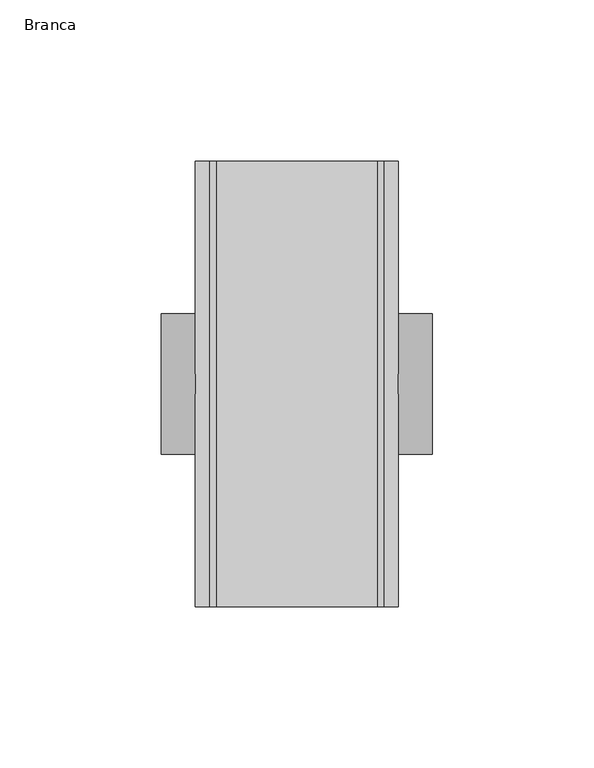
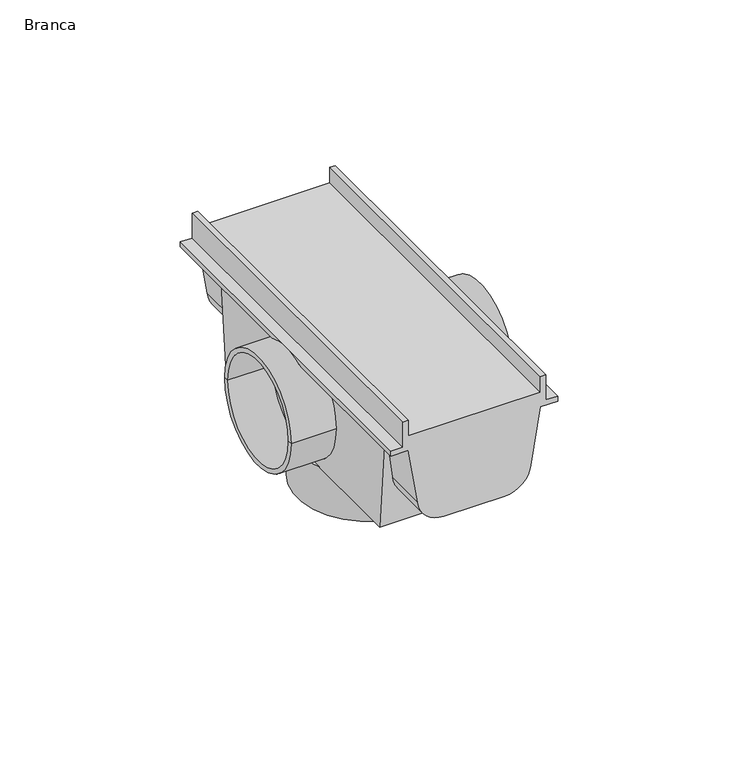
"""IFC4 building model written with IfcOpenShell, lengths in millimetres: pipe fitting geometry, AmancoWavin_ConexõesdeTubos_EsgotoZNãoUsarTerminalRalolinear : Branca."""

from ifc_helpers import new_model, si_unit, frame, origin, place, context, project, spatial, polyline, circle_curve, ellipse_curve, source, transform, mapped, element, save
from ifc_brep_helpers import plane_surface, cylinder_surface, revolved_surface, advanced_brep


def branca_e114f869(model_context):
    return source(origin(), model_context, "Body", "AdvancedBrep", [
        advanced_brep(
        [(0.0, 25.35, -40.0), (0.0, 25.35, -22.0), (0.0, -25.35, -22.0), (0.0, -25.35, -40.0), (0.0, 27.15, -40.0), (0.0, -27.15, -40.0), (0.0, 27.15, -22.0), (0.0, -27.15, -22.0)],
        [
            (0, 1),
            (1, 2, circle_curve(frame((0.0, 0.0, -22.0), z_axis=(0.0, 0.0, 1.0), x_axis=(0.0, -1.0, 0.0)), 25.35)),
            (2, 3),
            (3, 0, circle_curve(frame((0.0, 0.0, -40.0), z_axis=(0.0, 0.0, -1.0), x_axis=(0.0, -1.0, 0.0)), 25.35)),
            (2, 1, circle_curve(frame((0.0, 0.0, -22.0), z_axis=(0.0, 0.0, 1.0), x_axis=(0.0, -1.0, 0.0)), 25.35)),
            (0, 3, circle_curve(frame((0.0, 0.0, -40.0), z_axis=(0.0, 0.0, -1.0), x_axis=(0.0, -1.0, 0.0)), 25.35)),
            (4, 0),
            (3, 5),
            (5, 4, circle_curve(frame((0.0, 0.0, -40.0), z_axis=(0.0, 0.0, -1.0), x_axis=(0.0, -1.0, 0.0)), 27.15)),
            (4, 5, circle_curve(frame((0.0, 0.0, -40.0), z_axis=(0.0, 0.0, -1.0), x_axis=(0.0, -1.0, 0.0)), 27.15)),
            (6, 4),
            (5, 7),
            (7, 6, circle_curve(frame((0.0, 0.0, -22.0), z_axis=(0.0, 0.0, -1.0), x_axis=(0.0, -1.0, 0.0)), 27.15)),
            (6, 7, circle_curve(frame((0.0, 0.0, -22.0), z_axis=(0.0, 0.0, -1.0), x_axis=(0.0, -1.0, 0.0)), 27.15)),
            (1, 6),
            (7, 2),
        ],
        [
            revolved_surface(polyline([(0.0, -25.35, -22.0), (0.0, -25.35, -40.0)]), (0.0, 0.0, 2741.4742198), (0.0, 0.0, 1.0)),
            plane_surface(frame((0.0, 0.0, -40.0), z_axis=(0.0, 0.0, -1.0), x_axis=(0.0, -1.0, 0.0))),
            cylinder_surface(frame((0.0, 0.0, 2741.4742198), z_axis=(0.0, 0.0, 1.0), x_axis=(0.0, -1.0, 0.0)), 27.15),
            plane_surface(frame((0.0, 0.0, -22.0), z_axis=(0.0, 0.0, 1.0), x_axis=(0.0, -1.0, 0.0))),
        ],
        [
            (0, [[1, 2, 3, 4]]),
            (0, [[-3, 5, -1, 6]]),
            (1, [[7, -4, 8, 9]]),
            (1, [[-8, -6, -7, 10]]),
            (2, [[11, -9, 12, 13]]),
            (2, [[-12, -10, -11, 14]]),
            (3, [[15, -13, 16, -2]]),
            (3, [[-16, -14, -15, -5]]),
        ],
    ),
        advanced_brep(
        [(0.0, 20.0, -40.0), (0.0, 20.0, -22.0), (0.0, -20.0, -22.0), (0.0, -20.0, -40.0), (0.0, 21.8, -40.0), (0.0, -21.8, -40.0), (0.0, 21.8, -22.0), (0.0, -21.8, -22.0)],
        [
            (0, 1),
            (1, 2, circle_curve(frame((0.0, 0.0, -22.0), z_axis=(0.0, 0.0, 1.0), x_axis=(0.0, -1.0, 0.0)), 20.0)),
            (2, 3),
            (3, 0, circle_curve(frame((0.0, 0.0, -40.0), z_axis=(0.0, 0.0, -1.0), x_axis=(0.0, -1.0, 0.0)), 20.0)),
            (2, 1, circle_curve(frame((0.0, 0.0, -22.0), z_axis=(0.0, 0.0, 1.0), x_axis=(0.0, -1.0, 0.0)), 20.0)),
            (0, 3, circle_curve(frame((0.0, 0.0, -40.0), z_axis=(0.0, 0.0, -1.0), x_axis=(0.0, -1.0, 0.0)), 20.0)),
            (4, 0),
            (3, 5),
            (5, 4, circle_curve(frame((0.0, 0.0, -40.0), z_axis=(0.0, 0.0, -1.0), x_axis=(0.0, -1.0, 0.0)), 21.8)),
            (4, 5, circle_curve(frame((0.0, 0.0, -40.0), z_axis=(0.0, 0.0, -1.0), x_axis=(0.0, -1.0, 0.0)), 21.8)),
            (6, 4),
            (5, 7),
            (7, 6, circle_curve(frame((0.0, 0.0, -22.0), z_axis=(0.0, 0.0, -1.0), x_axis=(0.0, -1.0, 0.0)), 21.8)),
            (6, 7, circle_curve(frame((0.0, 0.0, -22.0), z_axis=(0.0, 0.0, -1.0), x_axis=(0.0, -1.0, 0.0)), 21.8)),
            (1, 6),
            (7, 2),
        ],
        [
            revolved_surface(polyline([(0.0, -20.0, -22.0), (0.0, -20.0, -40.0)]), (0.0, 0.0, 2741.4742198), (0.0, 0.0, 1.0)),
            plane_surface(frame((0.0, 0.0, -40.0), z_axis=(0.0, 0.0, -1.0), x_axis=(0.0, -1.0, 0.0))),
            cylinder_surface(frame((0.0, 0.0, 2741.4742198), z_axis=(0.0, 0.0, 1.0), x_axis=(0.0, -1.0, 0.0)), 21.8),
            plane_surface(frame((0.0, 0.0, -22.0), z_axis=(0.0, 0.0, 1.0), x_axis=(0.0, -1.0, 0.0))),
        ],
        [
            (0, [[1, 2, 3, 4]]),
            (0, [[-3, 5, -1, 6]]),
            (1, [[7, -4, 8, 9]]),
            (1, [[-8, -6, -7, 10]]),
            (2, [[11, -9, 12, 13]]),
            (2, [[-12, -10, -11, 14]]),
            (3, [[15, -13, 16, -2]]),
            (3, [[-16, -14, -15, -5]]),
        ],
    ),
        advanced_brep(
        [(-42.0, 20.0, 0.0), (-42.0, 21.8, 0.0), (-42.0, -21.8, 0.0), (-42.0, -20.0, 0.0), (-25.0, -20.0, 0.0), (-25.0, 20.0, 0.0), (-25.0, 0.0, 20.0), (42.0, 20.0, 0.0), (25.0, 20.0, 0.0), (25.0, -20.0, 0.0), (42.0, -20.0, 0.0), (25.0, 0.0, 20.0), (42.0, -21.8, 0.0), (42.0, 21.8, 0.0), (-25.0, 21.8, 0.0), (-25.0, -21.8, 0.0), (25.0, -21.8, 0.0), (25.0, 21.8, 0.0), (-25.0, -8.6740994, 20.0), (-31.5, -8.6740994, 20.0), (-31.5, 8.6740994, 20.0), (-25.0, 8.6740994, 20.0), (25.0, 8.6740994, 20.0), (31.5, 8.6740994, 20.0), (31.5, -8.6740994, 20.0), (25.0, -8.6740994, 20.0), (25.0, 54.0, 20.0), (25.0, -54.0, 20.0), (25.0, -50.3254761, -22.0), (25.0, 50.3254761, -22.0), (-25.0, -54.0, 20.0), (-25.0, 54.0, 20.0), (-25.0, 50.3254761, -22.0), (-25.0, -50.3254761, -22.0), (-21.3121214, 52.0719341, -2.0378936), (-11.5480068, 51.2878514, -11.0), (11.5480068, 51.2878514, -11.0), (21.3121214, 52.0719341, -2.0378936), (21.3121214, -52.0719341, -2.0378936), (11.5480068, -51.2878514, -11.0), (-11.5480068, -51.2878514, -11.0), (-21.3121214, -52.0719341, -2.0378936), (-31.5, -69.0, 20.0), (-25.0, -69.0, 20.0), (-21.3121214, -69.0, -2.0378936), (-11.5480068, -69.0, -11.0), (11.5480068, -69.0, -11.0), (21.3121214, -69.0, -2.0378936), (25.0, -69.0, 20.0), (31.5, -69.0, 20.0), (31.5, -69.0, 22.0), (27.0, -69.0, 22.0), (27.0, -69.0, 32.0), (25.0, -69.0, 32.0), (25.0, -69.0, 25.8), (-25.0, -69.0, 25.8), (-25.0, -69.0, 32.0), (-27.0, -69.0, 32.0), (-27.0, -69.0, 22.0), (-31.5, -69.0, 22.0), (-31.5, 69.0, 20.0), (-25.0, 69.0, 20.0), (25.0, 69.0, 20.0), (31.5, 69.0, 20.0), (31.5, 69.0, 22.0), (27.0, 69.0, 22.0), (27.0, 69.0, 32.0), (25.0, 69.0, 32.0), (25.0, 69.0, 25.8), (-25.0, 69.0, 25.8), (-25.0, 69.0, 32.0), (-27.0, 69.0, 22.0), (-27.0, 69.0, 32.0), (-31.5, 69.0, 22.0), (21.3121214, 69.0, -2.0378936), (11.5480068, 69.0, -11.0), (-11.5480068, 69.0, -11.0), (-21.3121214, 69.0, -2.0378936)],
        [
            (0, 1),
            (1, 2, circle_curve(frame((-42.0, 0.0, 0.0), z_axis=(-1.0, 0.0, 0.0), x_axis=(0.0, -1.0, 0.0)), 21.8)),
            (2, 3),
            (3, 0, circle_curve(frame((-42.0, 0.0, 0.0), z_axis=(1.0, 0.0, 0.0), x_axis=(0.0, -1.0, 0.0)), 20.0)),
            (2, 1, circle_curve(frame((-42.0, 0.0, 0.0), z_axis=(-1.0, 0.0, 0.0), x_axis=(0.0, -1.0, 0.0)), 21.8)),
            (0, 3, circle_curve(frame((-42.0, 0.0, 0.0), z_axis=(1.0, 0.0, 0.0), x_axis=(0.0, -1.0, 0.0)), 20.0)),
            (3, 4),
            (4, 5, circle_curve(frame((-25.0, 0.0, 0.0), z_axis=(1.0, 0.0, 0.0), x_axis=(0.0, -1.0, 0.0)), 20.0)),
            (5, 0),
            (5, 6, circle_curve(frame((-25.0, 0.0, 0.0), z_axis=(1.0, 0.0, 0.0), x_axis=(0.0, -1.0, 0.0)), 20.0)),
            (6, 4, circle_curve(frame((-25.0, 0.0, 0.0), z_axis=(1.0, 0.0, 0.0), x_axis=(0.0, -1.0, 0.0)), 20.0)),
            (7, 8),
            (8, 9, circle_curve(frame((25.0, 0.0, 0.0), z_axis=(-1.0, 0.0, 0.0), x_axis=(0.0, -1.0, 0.0)), 20.0)),
            (9, 10),
            (10, 7, circle_curve(frame((42.0, 0.0, 0.0), z_axis=(1.0, 0.0, 0.0), x_axis=(0.0, -1.0, 0.0)), 20.0)),
            (9, 11, circle_curve(frame((25.0, 0.0, 0.0), z_axis=(-1.0, 0.0, 0.0), x_axis=(0.0, -1.0, 0.0)), 20.0)),
            (11, 8, circle_curve(frame((25.0, 0.0, 0.0), z_axis=(-1.0, 0.0, 0.0), x_axis=(0.0, -1.0, 0.0)), 20.0)),
            (7, 10, circle_curve(frame((42.0, 0.0, 0.0), z_axis=(1.0, 0.0, 0.0), x_axis=(0.0, -1.0, 0.0)), 20.0)),
            (10, 12),
            (12, 13, circle_curve(frame((42.0, 0.0, 0.0), z_axis=(1.0, 0.0, 0.0), x_axis=(0.0, -1.0, 0.0)), 21.8)),
            (13, 7),
            (13, 12, circle_curve(frame((42.0, 0.0, 0.0), z_axis=(1.0, 0.0, 0.0), x_axis=(0.0, -1.0, 0.0)), 21.8)),
            (1, 14),
            (14, 15, circle_curve(frame((-25.0, 0.0, 0.0), z_axis=(-1.0, 0.0, 0.0), x_axis=(0.0, -1.0, 0.0)), 21.8)),
            (15, 2),
            (12, 16),
            (16, 17, circle_curve(frame((25.0, 0.0, 0.0), z_axis=(1.0, 0.0, 0.0), x_axis=(0.0, -1.0, 0.0)), 21.8)),
            (17, 13),
            (15, 18, circle_curve(frame((-25.0, 0.0, 0.0), z_axis=(-1.0, 0.0, 0.0), x_axis=(0.0, -1.0, 0.0)), 21.8)),
            (18, 19),
            (19, 20, circle_curve(frame((-31.5, 0.0, 0.0), z_axis=(-1.0, 0.0, 0.0), x_axis=(0.0, -1.0, 0.0)), 21.8)),
            (20, 21),
            (21, 14, circle_curve(frame((-25.0, 0.0, 0.0), z_axis=(-1.0, 0.0, 0.0), x_axis=(0.0, -1.0, 0.0)), 21.8)),
            (17, 22, circle_curve(frame((25.0, 0.0, 0.0), z_axis=(1.0, 0.0, 0.0), x_axis=(0.0, -1.0, 0.0)), 21.8)),
            (22, 23),
            (23, 24, circle_curve(frame((31.5, 0.0, 0.0), z_axis=(1.0, 0.0, 0.0), x_axis=(0.0, -1.0, 0.0)), 21.8)),
            (24, 25),
            (25, 16, circle_curve(frame((25.0, 0.0, 0.0), z_axis=(1.0, 0.0, 0.0), x_axis=(0.0, -1.0, 0.0)), 21.8)),
            (26, 22),
            (25, 27),
            (27, 28),
            (28, 29),
            (29, 26),
            (30, 18),
            (21, 31),
            (31, 32),
            (32, 33),
            (33, 30),
            (29, 32),
            (31, 34),
            (34, 35, ellipse_curve(frame((-11.5480068, 52.1452403, -1.2), z_axis=(0.0, -0.9961946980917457, 0.0871557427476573), x_axis=(0.0, 0.08715574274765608, 0.9961946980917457)), 9.8374344, 9.8)),
            (35, 36),
            (36, 37, ellipse_curve(frame((11.5480068, 52.1452403, -1.2), z_axis=(0.0, -0.9961946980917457, 0.0871557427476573), x_axis=(0.0, 0.08715574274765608, 0.9961946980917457)), 9.8374344, 9.8)),
            (37, 26),
            (28, 33),
            (27, 38),
            (38, 39, ellipse_curve(frame((11.5480068, -52.1452403, -1.2), z_axis=(0.0, 0.9961946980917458, 0.0871557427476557), x_axis=(0.0, 0.08715574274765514, -0.9961946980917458)), 9.8374344, 9.8)),
            (39, 40),
            (40, 41, ellipse_curve(frame((-11.5480068, -52.1452403, -1.2), z_axis=(0.0, 0.9961946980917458, 0.0871557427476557), x_axis=(0.0, 0.08715574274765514, -0.9961946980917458)), 9.8374344, 9.8)),
            (41, 30),
            (42, 43),
            (43, 44),
            (44, 45, circle_curve(frame((-11.5480068, -69.0, -1.2), z_axis=(0.0, -1.0, 0.0), x_axis=(1.0, 0.0, 0.0)), 9.8)),
            (45, 46),
            (46, 47, circle_curve(frame((11.5480068, -69.0, -1.2), z_axis=(0.0, -1.0, 0.0), x_axis=(1.0, 0.0, 0.0)), 9.8)),
            (47, 48),
            (48, 49),
            (49, 50),
            (50, 51),
            (51, 52),
            (52, 53),
            (53, 54),
            (54, 55),
            (55, 56),
            (56, 57),
            (57, 58),
            (58, 59),
            (59, 42),
            (48, 27),
            (24, 49),
            (60, 61),
            (61, 31),
            (20, 60),
            (30, 43),
            (42, 19),
            (26, 62),
            (62, 63),
            (63, 23),
            (64, 50),
            (63, 64),
            (65, 51),
            (64, 65),
            (66, 52),
            (65, 66),
            (67, 53),
            (66, 67),
            (68, 54),
            (67, 68),
            (69, 55),
            (68, 69),
            (70, 56),
            (69, 70),
            (71, 58),
            (57, 72),
            (72, 71),
            (73, 59),
            (71, 73),
            (73, 60),
            (62, 74),
            (74, 75, circle_curve(frame((11.5480068, 69.0, -1.2), z_axis=(0.0, 1.0, 0.0), x_axis=(1.0, 0.0, 0.0)), 9.8)),
            (75, 76),
            (76, 77, circle_curve(frame((-11.5480068, 69.0, -1.2), z_axis=(0.0, 1.0, 0.0), x_axis=(1.0, 0.0, 0.0)), 9.8)),
            (77, 61),
            (72, 70),
            (41, 44),
            (77, 34),
            (75, 36),
            (35, 76),
            (45, 40),
            (39, 46),
            (37, 74),
            (47, 38),
        ],
        [
            plane_surface(frame((-42.0, 0.0, 0.0), z_axis=(-1.0, 0.0, 0.0), x_axis=(0.0, -1.0, 0.0))),
            revolved_surface(polyline([(-42.0, -20.0, 0.0), (-25.0, -20.0, 0.0)]), (1988.5, 0.0, 0.0), (-1.0, 0.0, 0.0)),
            revolved_surface(polyline([(25.0, -20.0, 0.0), (42.0, -20.0, 0.0)]), (1988.5, 0.0, 0.0), (-1.0, 0.0, 0.0)),
            plane_surface(frame((42.0, 0.0, 0.0), z_axis=(1.0, 0.0, 0.0), x_axis=(0.0, -1.0, 0.0))),
            cylinder_surface(frame((1988.5, 0.0, 0.0), z_axis=(-1.0, 0.0, 0.0), x_axis=(0.0, -1.0, 0.0)), 21.8),
            plane_surface(frame((25.0, 54.0, 20.0), z_axis=(1.0, 0.0, 0.0), x_axis=(0.0, -0.0871557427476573, -0.9961946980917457))),
            plane_surface(frame((-25.0, 54.0, 20.0), z_axis=(-1.0, 0.0, 0.0), x_axis=(0.0, 0.0871557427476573, 0.9961946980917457))),
            plane_surface(frame((25.0, 54.0, 20.0), z_axis=(0.0, 0.9961946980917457, -0.0871557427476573), x_axis=(-1.0, 0.0, 0.0))),
            plane_surface(frame((25.0, 50.3254761, -22.0), z_axis=(0.0, 0.0, -1.0), x_axis=(-1.0, 0.0, 0.0))),
            plane_surface(frame((25.0, -50.3254761, -22.0), z_axis=(0.0, -0.9961946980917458, -0.0871557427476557), x_axis=(-1.0, 0.0, 0.0))),
            plane_surface(frame((31.5, -69.0, 20.0), z_axis=(0.0, -1.0, 0.0), x_axis=(-1.0, 0.0, 0.0))),
            plane_surface(frame((-31.5, 69.0, 20.0), z_axis=(0.0, 0.0, -1.0), x_axis=(0.0, -1.0, 0.0))),
            plane_surface(frame((31.5, 69.0, 20.0), z_axis=(1.0, 0.0, 0.0), x_axis=(0.0, -1.0, 0.0))),
            plane_surface(frame((31.5, 69.0, 22.0), z_axis=(0.0, 0.0, 1.0), x_axis=(0.0, -1.0, 0.0))),
            plane_surface(frame((27.0, 69.0, 22.0), z_axis=(1.0, 0.0, 0.0), x_axis=(0.0, -1.0, 0.0))),
            plane_surface(frame((27.0, 69.0, 32.0), z_axis=(0.0, 0.0, 1.0), x_axis=(0.0, -1.0, 0.0))),
            plane_surface(frame((25.0, 69.0, 32.0), z_axis=(-1.0, 0.0, 0.0), x_axis=(0.0, -1.0, 0.0))),
            plane_surface(frame((25.0, 69.0, 25.8), z_axis=(0.0, 0.0, 1.0), x_axis=(0.0, -1.0, 0.0))),
            plane_surface(frame((-25.0, 69.0, 25.8), z_axis=(1.0, 0.0, 0.0), x_axis=(0.0, -1.0, 0.0))),
            plane_surface(frame((-27.0, 69.0, 32.0), z_axis=(-1.0, 0.0, 0.0), x_axis=(0.0, -1.0, 0.0))),
            plane_surface(frame((-27.0, 69.0, 22.0), z_axis=(0.0, 0.0, 1.0), x_axis=(0.0, -1.0, 0.0))),
            plane_surface(frame((-31.5, 69.0, 22.0), z_axis=(-1.0, 0.0, 0.0), x_axis=(0.0, -1.0, 0.0))),
            plane_surface(frame((31.5, 69.0, 20.0), z_axis=(0.0, 1.0, 0.0), x_axis=(1.0, 0.0, 0.0))),
            plane_surface(frame((-25.0, 69.0, 32.0), z_axis=(0.0, 0.0, 1.0), x_axis=(0.0, -1.0, 0.0))),
            plane_surface(frame((-25.0, 69.0, 20.0), z_axis=(-0.9862856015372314, 0.0, -0.16504760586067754), x_axis=(0.0, -1.0, 0.0))),
            plane_surface(frame((-11.5480068, 69.0, -11.0), z_axis=(0.0, 0.0, -1.0), x_axis=(0.0, -1.0, 0.0))),
            plane_surface(frame((21.3121214, 69.0, -2.0378936), z_axis=(0.9862856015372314, 0.0, -0.1650476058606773), x_axis=(0.0, -1.0, 0.0))),
            cylinder_surface(frame((-11.5480068, -69.0, -1.2), z_axis=(0.0, 1.0, 0.0), x_axis=(1.0, 0.0, 0.0)), 9.8),
            cylinder_surface(frame((11.5480068, -69.0, -1.2), z_axis=(0.0, 1.0, 0.0), x_axis=(1.0, 0.0, 0.0)), 9.8),
        ],
        [
            (0, [[1, 2, 3, 4]]),
            (0, [[5, -1, 6, -3]]),
            (1, [[7, 8, 9, -4]]),
            (1, [[-9, 10, 11, -7, -6]]),
            (2, [[12, 13, 14, 15]]),
            (2, [[-14, 16, 17, -12, 18]]),
            (3, [[19, 20, 21, -15]]),
            (3, [[-21, 22, -19, -18]]),
            (4, [[23, 24, 25, -2]]),
            (4, [[26, 27, 28, -20]]),
            (4, [[-25, 29, 30, 31, 32, 33, -23, -5]]),
            (4, [[-28, 34, 35, 36, 37, 38, -26, -22]]),
            (5, [[39, -34, -27, -38, 40, 41, 42, 43]]),
            (5, [[-17, -16, -13]]),
            (6, [[-11, -10, -8]]),
            (6, [[44, -29, -24, -33, 45, 46, 47, 48]]),
            (7, [[49, -46, 50, 51, 52, 53, 54, -43]]),
            (8, [[55, -47, -49, -42]]),
            (9, [[56, 57, 58, 59, 60, -48, -55, -41]]),
            (10, [[61, 62, 63, 64, 65, 66, 67, 68, 69, 70, 71, 72, 73, 74, 75, 76, 77, 78]]),
            (11, [[-67, 79, -40, -37, 80]]),
            (11, [[81, 82, -45, -32, 83]]),
            (11, [[-30, -44, 84, -61, 85]]),
            (11, [[-35, -39, 86, 87, 88]]),
            (12, [[89, -68, -80, -36, -88, 90]]),
            (13, [[91, -69, -89, 92]]),
            (14, [[93, -70, -91, 94]]),
            (15, [[95, -71, -93, 96]]),
            (16, [[97, -72, -95, 98]]),
            (17, [[99, -73, -97, 100]]),
            (18, [[101, -74, -99, 102]]),
            (19, [[103, -76, 104, 105]]),
            (20, [[106, -77, -103, 107]]),
            (21, [[-83, -31, -85, -78, -106, 108]]),
            (22, [[-87, 109, 110, 111, 112, 113, -81, -108, -107, -105, 114, -102, -100, -98, -96, -94, -92, -90]]),
            (23, [[-104, -75, -101, -114]]),
            (24, [[-84, -60, 115, -62]]),
            (24, [[116, -50, -82, -113]]),
            (25, [[117, -52, 118, -111]]),
            (25, [[119, -58, 120, -64]]),
            (26, [[-86, -54, 121, -109]]),
            (26, [[122, -56, -79, -66]]),
            (27, [[-115, -59, -119, -63]]),
            (27, [[-118, -51, -116, -112]]),
            (28, [[-120, -57, -122, -65]]),
            (28, [[-121, -53, -117, -110]]),
        ],
    ),
    ])


if __name__ == "__main__":
    model = new_model("IFC4")
    model_context = context("Model", 3, world=origin())
    ifc_project = project(units=[si_unit("LENGTHUNIT", "METRE", prefix="MILLI")], contexts=[model_context])
    site = spatial("IfcSite", under=ifc_project)
    building = spatial("IfcBuilding", under=site)
    placement = place(None, origin())
    branca_shape = branca_e114f869(model_context)
    element("IfcPipeFitting", 1, ObjectType="AmancoWavin_ConexõesdeTubos_EsgotoZNãoUsarTerminalRalolinear : Branca", at=placement, inside=building, context=model_context, shape_type="MappedRepresentation", body=[
        mapped(branca_shape, transform((0.0, 0.0, 0.0), x_axis=(1.0, 0.0, 0.0), y_axis=(0.0, 1.0, 0.0), z_axis=(0.0, 0.0, 1.0))),
    ])
    save(model, "model.ifc")
